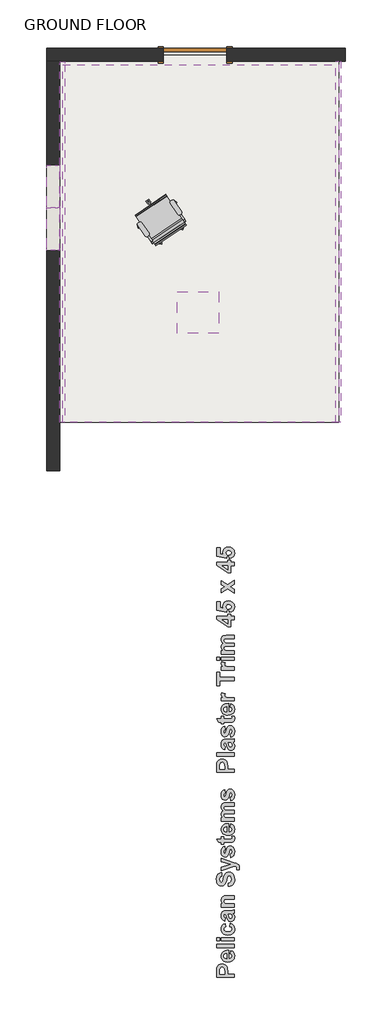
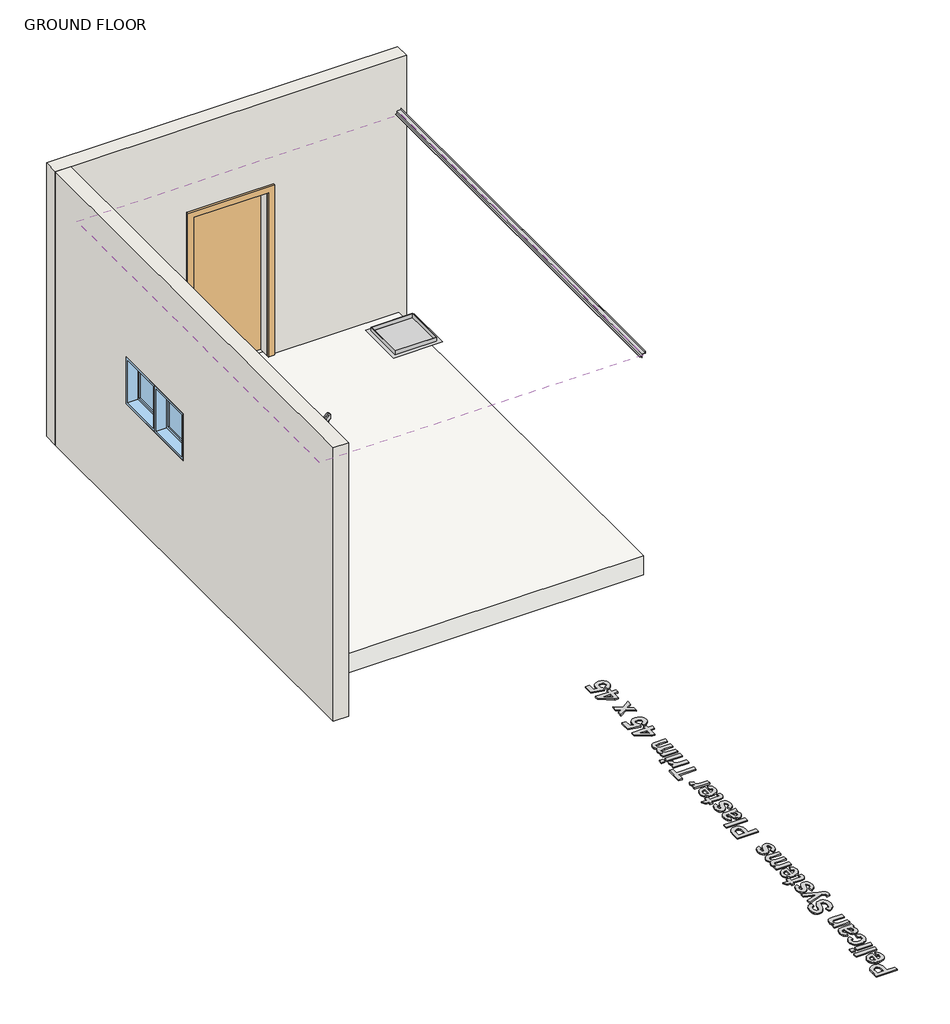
# One storey, incomplete: 4 proxies, 2 walls, 2 windows, 1 covering, 1 door, 1 furniture element, 1 slab.
"""IFC4 building model written with IfcOpenShell, lengths in millimetres."""

from ifc_helpers import new_model, si_unit, frame, origin, origin_with_axes, place, context, project, spatial, polyline, outline, extrude, faceted_brep, transform, mapped, element, save
from components import m_single_flush_0915_x_2134mm_f5238887, chair_task_arms_chair_task_arms_3b363349, m_fixed_0610_x_0610mm_09852ef8

model = new_model("IFC4")

# Units and contexts
model_context = context("Model", 3, world=origin())
ifc_project = project(units=[si_unit("LENGTHUNIT", "METRE", prefix="MILLI")], contexts=[model_context])

# Site, building, storey
site = spatial("IfcSite", under=ifc_project)
building = spatial("IfcBuilding", under=site)
storey = spatial("IfcBuildingStorey", under=building, Name="GROUND FLOOR", Elevation=0.0)

# Proxies
placement = place(None, origin())
element("IfcBuildingElementProxy", 1, Name="600mm Arial", ObjectType="600mm Arial", at=placement, inside=storey, context=model_context, shape_type="SweptSolid", body=[
    extrude(outline(polyline([(137960.6983017, 29009.1487139), (137705.6334517, 29009.1487139), (137705.6334517, 29091.3236246), (137709.4290596, 29152.2431312), (137718.4831659, 29172.2886854), (137734.2586612, 29188.7758571), (137756.1703892, 29199.8068425), (137783.6331938, 29203.4838377), (137805.117916, 29201.3250857), (137822.8861054, 29194.8488297), (137837.0880049, 29185.0435094), (137847.8738573, 29172.8975641), (137859.9249123, 29145.8538579), (137863.5307398, 29091.7664455), (137863.5307398, 29057.7324948), (137960.6983017, 29057.7324948), (137960.6983017, 29009.1487139)]), holes=[polyline([(137750.1685843, 29057.7324948), (137818.9956073, 29057.7324948), (137818.9956073, 29087.9075775), (137815.1999994, 29131.462178), (137803.2754646, 29148.6689338), (137794.4902139, 29153.342276), (137784.3923154, 29154.9000567), (137772.3254453, 29152.7096747), (137762.56757, 29146.1385285), (137755.5773255, 29136.2304104), (137751.8133477, 29124.0291126), (137750.1685843, 29084.3650102), (137750.1685843, 29057.7324948)])]), origin_with_axes(), (0.0, 0.0, 1.0), 15.0),
    extrude(outline(polyline([(137904.017224, 29349.2351805), (137912.1145208, 29397.8189615), (137934.7853704, 29385.9893169), (137951.3041722, 29368.8458213), (137961.3862557, 29346.56244), (137964.7469501, 29319.3131384), (137962.7661173, 29297.3104739), (137956.8236187, 29278.3680183), (137946.9194543, 29262.4857715), (137933.0536243, 29249.6637336), (137904.3493396, 29236.2842158), (137868.9711111, 29231.8243766), (137847.1305507, 29233.3030821), (137827.7887656, 29237.7391989), (137810.9457556, 29245.1327267), (137796.6015208, 29255.4836657), (137785.1435294, 29268.0961544), (137776.9592499, 29282.2743314), (137772.0486822, 29298.0181966), (137770.4118263, 29315.3277501), (137772.0921736, 29334.5627838), (137777.1332153, 29351.6548806), (137785.5349515, 29366.6040404), (137797.2973822, 29379.4102632), (137812.5312126, 29389.6149132), (137831.347148, 29396.7593543), (137853.7451882, 29400.8435865), (137879.7253335, 29401.8676099), (137879.7253335, 29280.4081575), (137900.189986, 29283.523719), (137915.5305679, 29291.8582413), (137925.1144778, 29304.1465218), (137928.3091144, 29319.123358), (137926.8699464, 29329.3240542), (137922.5524425, 29337.7850967), (137915.0403019, 29344.4432256), (137904.017224, 29349.2351805)]), holes=[polyline([(137851.3847946, 29353.2838289), (137832.1774372, 29350.3264178), (137818.2048556, 29342.4663465), (137809.6884604, 29331.0478927), (137806.8496621, 29317.4153344), (137809.8387033, 29303.0236545), (137818.8058269, 29291.3521603), (137832.9602813, 29283.6976844), (137851.3847946, 29281.2305392), (137851.3847946, 29353.2838289)])]), origin_with_axes(), (0.0, 0.0, 1.0), 15.0),
    extrude(outline(polyline([(137960.6983017, 29438.3054456), (137705.6334517, 29438.3054456), (137705.6334517, 29486.8892266), (137960.6983017, 29486.8892266), (137960.6983017, 29438.3054456)])), origin_with_axes(), (0.0, 0.0, 1.0), 15.0),
    extrude(outline(polyline([(137750.1685843, 29535.4730075), (137705.6334517, 29535.4730075), (137705.6334517, 29584.0567885), (137750.1685843, 29584.0567885), (137750.1685843, 29535.4730075)])), origin_with_axes(), (0.0, 0.0, 1.0), 15.0),
    extrude(outline(polyline([(137960.6983017, 29535.4730075), (137774.4604748, 29535.4730075), (137774.4604748, 29584.0567885), (137960.6983017, 29584.0567885), (137960.6983017, 29535.4730075)])), origin_with_axes(), (0.0, 0.0, 1.0), 15.0),
    extrude(outline(polyline([(137827.0929041, 29786.4892091), (137835.1902009, 29737.9054281), (137822.8307528, 29734.1809879), (137813.9664268, 29727.5623966), (137808.6288532, 29718.2868799), (137806.8496621, 29706.5916631), (137810.186634, 29691.1878211), (137820.1975498, 29679.2632863), (137838.0210918, 29671.6246254), (137864.7959425, 29669.0784051), (137894.4807591, 29671.7274231), (137913.9490646, 29679.6744771), (137924.719102, 29692.0813704), (137928.3091144, 29708.1099062), (137926.2610677, 29720.2479439), (137920.1169274, 29729.9662816), (137908.9594217, 29737.2174742), (137891.8712787, 29741.9540765), (137899.9685755, 29790.5378575), (137928.1114265, 29779.9022479), (137948.3942062, 29762.5452493), (137960.6587641, 29738.3087115), (137964.7469501, 29707.034484), (137963.1377705, 29688.2679706), (137958.3102318, 29671.5060127), (137950.2643338, 29656.7486101), (137939.0000766, 29643.995763), (137924.8930673, 29633.7140148), (137908.3189129, 29626.3699089), (137889.2776133, 29621.9634453), (137867.7691686, 29620.4946242), (137846.0175678, 29621.9535609), (137826.816141, 29626.3303713), (137810.1648883, 29633.6250552), (137796.0638096, 29643.8376127), (137784.8410669, 29656.5410378), (137776.8248222, 29671.3083248), (137772.0150753, 29688.1394735), (137770.4118263, 29707.034484), (137773.9148561, 29736.2764797), (137784.4239455, 29758.8445316), (137802.0972447, 29775.371241), (137827.0929041, 29786.4892091)])), origin_with_axes(), (0.0, 0.0, 1.0), 15.0),
    extrude(outline(polyline([(137831.1415525, 29867.4621773), (137823.0442557, 29822.9270448), (137799.7012672, 29832.5821224), (137783.3168932, 29847.3770856), (137773.638093, 29868.9408829), (137770.4118263, 29898.9024627), (137772.3649829, 29925.993614), (137778.2244526, 29945.1456187), (137787.080871, 29958.0823156), (137798.0248737, 29966.5275432), (137815.0339416, 29971.1771628), (137842.0855553, 29972.7270361), (137899.5257546, 29972.7270361), (137935.7105498, 29975.2890714), (137960.6983017, 29984.8729813), (137960.6983017, 29936.2892003), (137945.2628297, 29931.7344709), (137939.1265969, 29930.0264473), (137958.3260468, 29904.0265333), (137963.1417243, 29889.7139286), (137964.7469501, 29874.4840519), (137960.8485445, 29849.7098029), (137949.1533277, 29830.8029312), (137931.5116586, 29818.8230438), (137909.7738959, 29814.829748), (137894.876135, 29816.6089392), (137881.6863976, 29821.9465128), (137870.7898399, 29830.494538), (137862.7716182, 29841.9050842), (137851.3215345, 29878.9122611), (137839.2388494, 29924.1432551), (137834.1147787, 29924.1432551), (137821.4943825, 29922.6329195), (137813.1124151, 29918.1019126), (137808.4153503, 29909.395737), (137806.8496621, 29895.3598953), (137808.1939398, 29885.2857194), (137812.2267732, 29877.7103186), (137831.1415525, 29867.4621773)]), holes=[polyline([(137875.6766851, 29924.1432551), (137882.4138891, 29896.7516182), (137890.099995, 29872.2066872), (137897.0111644, 29865.6118185), (137905.5987272, 29863.4135289), (137914.2100126, 29865.1769051), (137921.5719104, 29870.4670336), (137926.6248134, 29878.4773477), (137928.3091144, 29888.4012808), (137926.3480504, 29900.3100006), (137920.4648581, 29911.6177491), (137905.9150279, 29922.3719714), (137884.4698433, 29924.1432551), (137875.6766851, 29924.1432551)])]), origin_with_axes(), (0.0, 0.0, 1.0), 15.0),
    extrude(outline(polyline([(137960.6983017, 30187.3054019), (137960.6983017, 30138.721621), (137864.9857228, 30138.721621), (137825.6379211, 30135.6851347), (137811.7839523, 30125.753294), (137806.8496621, 30109.2423997), (137808.6130382, 30097.4839228), (137813.9031667, 30087.0064635), (137822.1111688, 30078.7193863), (137832.6281656, 30073.5320555), (137875.7399452, 30069.894598), (137960.6983017, 30069.894598), (137960.6983017, 30021.310817), (137774.4604748, 30021.310817), (137774.4604748, 30069.894598), (137801.2827705, 30069.894598), (137787.7767324, 30082.1868322), (137778.1295624, 30095.9735871), (137772.3412603, 30111.2548626), (137770.4118263, 30128.0306588), (137776.2950186, 30156.2446774), (137791.2876697, 30175.6022776), (137811.9421026, 30184.7433666), (137845.0587814, 30187.3054019), (137960.6983017, 30187.3054019)])), origin_with_axes(), (0.0, 0.0, 1.0), 15.0),
    extrude(outline(polyline([(137875.6766851, 30320.9107995), (137871.6280367, 30369.4945805), (137893.3578918, 30376.5797152), (137908.4454332, 30388.4726199), (137917.2702215, 30405.2523698), (137920.2118176, 30426.99804), (137917.6102447, 30449.5660919), (137909.805526, 30465.7765005), (137898.5215, 30475.5501909), (137885.4820054, 30478.8080876), (137870.2679438, 30473.3993464), (137859.3555712, 30454.452937), (137848.5380887, 30412.3216895), (137837.3568604, 30376.3583047), (137823.676857, 30352.9836862), (137800.3813136, 30335.0019938), (137772.4994107, 30329.0080964), (137753.7111516, 30331.7599121), (137736.1880952, 30340.0153592), (137721.3061493, 30353.4581372), (137710.4412217, 30371.7719452), (137703.7989079, 30394.6562978), (137701.5848033, 30421.8107092), (137707.1042498, 30463.7758989), (137714.0035579, 30480.3164464), (137723.6625892, 30493.895629), (137735.6227078, 30504.556938), (137749.4252777, 30512.3438648), (137765.070299, 30517.2564094), (137782.5577716, 30519.2945717), (137782.5577716, 30470.7107908), (137765.8650044, 30465.3415871), (137754.6284235, 30456.0660704), (137748.2470578, 30442.0302287), (137746.1199359, 30422.3800504), (137748.3814856, 30401.6939874), (137755.1661347, 30386.0687349), (137761.9665988, 30379.7110917), (137770.728127, 30377.5918773), (137778.9993892, 30379.5213113), (137785.9738187, 30385.3096133), (137794.1422831, 30402.1130858), (137802.5796032, 30432.9128623), (137811.3569464, 30465.7844081), (137820.5454805, 30488.8031884), (137831.6713561, 30504.9345219), (137846.2607239, 30517.1437273), (137864.4954568, 30524.8298333), (137886.5574277, 30527.3918686), (137907.6230514, 30524.3632898), (137927.2969523, 30515.2775534), (137943.8394767, 30500.648648), (137955.5109709, 30480.9905622), (137962.4379553, 30456.0897929), (137964.7469501, 30425.7328373), (137963.3255741, 30403.0303577), (137959.0614458, 30383.1271388), (137951.9545654, 30366.0231808), (137942.0049329, 30351.7184835), (137929.3311609, 30340.1142032), (137914.0518623, 30331.1114957), (137896.167037, 30324.7103612), (137875.6766851, 30320.9107995)])), origin_with_axes(), (0.0, 0.0, 1.0), 15.0),
    extrude(outline(polyline([(137774.4604748, 30547.6351106), (137774.4604748, 30596.2188916), (137906.2945887, 30638.7296999), (137774.4604748, 30681.2405082), (137774.4604748, 30729.8242892), (137952.9173056, 30666.8171983), (137986.0656144, 30655.114074), (138009.6616435, 30643.5691), (138022.8830109, 30630.9487038), (138030.7588973, 30613.3940173), (138033.5739732, 30589.8928784), (138030.7905274, 30563.8297043), (137994.7955126, 30559.7810559), (137997.1361374, 30579.075396), (137994.5661946, 30592.8423821), (137986.8563661, 30602.5132747), (137960.6983017, 30614.1847689), (137774.4604748, 30547.6351106)])), origin_with_axes(), (0.0, 0.0, 1.0), 15.0),
    extrude(outline(polyline([(137908.0658724, 30737.921586), (137899.9685755, 30786.505367), (137912.209411, 30791.1312641), (137921.0974594, 30798.9359828), (137926.5062007, 30810.1883787), (137928.3091144, 30825.1573073), (137926.5852758, 30841.399346), (137921.4137601, 30853.0550253), (137915.7836084, 30857.7995351), (137908.5086933, 30859.3810384), (137899.3992344, 30856.0282514), (137893.0099611, 30840.1499584), (137880.5793453, 30793.2267559), (137869.2241517, 30767.3375471), (137851.2424593, 30751.3485489), (137827.4092048, 30746.0188829), (137805.2207137, 30750.5894273), (137786.8594605, 30764.3010608), (137774.5237349, 30787.6282343), (137770.4118263, 30821.0453987), (137773.7329832, 30852.91269), (137783.6964539, 30875.3858517), (137800.1757182, 30890.3943178), (137823.0442557, 30899.8675225), (137831.1415525, 30851.2837416), (137820.7510759, 30847.7095441), (137813.1124151, 30841.9212421), (137808.4153503, 30833.5709048), (137806.8496621, 30822.3106014), (137808.1781248, 30808.4724476), (137812.1635131, 30799.2206534), (137822.0320936, 30794.6026638), (137830.8252519, 30799.2206534), (137844.4261801, 30842.2059127), (137854.2473155, 30873.4326951), (137866.1244052, 30893.5415094), (137881.7971028, 30904.3589919), (137902.6255011, 30907.9648194), (137926.3243278, 30902.737951), (137946.4331421, 30887.0573459), (137954.4454331, 30875.348291), (137960.1684981, 30861.1285995), (137964.7469501, 30825.1573073), (137960.9355272, 30791.8429406), (137949.5012585, 30766.293755), (137931.5195661, 30748.3674152), (137908.0658724, 30737.921586)])), origin_with_axes(), (0.0, 0.0, 1.0), 15.0),
    extrude(outline(polyline([(137774.4604748, 31041.570217), (137810.8983105, 31041.570217), (137810.8983105, 31005.1323813), (137890.7958565, 31005.1323813), (137919.0415052, 31006.2394336), (137925.683819, 31011.268614), (137928.3091144, 31020.8208939), (137923.6278647, 31043.5945412), (137958.1678965, 31045.6188654), (137963.1021867, 31026.8780514), (137964.7469501, 31005.8282427), (137960.1922207, 30981.2833117), (137948.4258362, 30965.2468684), (137928.8784556, 30958.1301036), (137893.5160421, 30956.5486003), (137810.8983105, 30956.5486003), (137810.8983105, 30932.2567098), (137774.4604748, 30932.2567098), (137774.4604748, 30956.5486003), (137738.022639, 30956.5486003), (137709.6821002, 31005.1323813), (137774.4604748, 31005.1323813), (137774.4604748, 31041.570217)])), origin_with_axes(), (0.0, 0.0, 1.0), 15.0),
    extrude(outline(polyline([(137904.017224, 31175.1756146), (137912.1145208, 31223.7593955), (137934.7853704, 31211.9297509), (137951.3041722, 31194.7862553), (137961.3862557, 31172.502874), (137964.7469501, 31145.2535724), (137962.7661173, 31123.2509079), (137956.8236187, 31104.3084523), (137946.9194543, 31088.4262056), (137933.0536243, 31075.6041677), (137904.3493396, 31062.2246499), (137868.9711111, 31057.7648106), (137847.1305507, 31059.2435162), (137827.7887656, 31063.6796329), (137810.9457556, 31071.0731608), (137796.6015208, 31081.4240998), (137785.1435294, 31094.0365885), (137776.9592499, 31108.2147654), (137772.0486822, 31123.9586307), (137770.4118263, 31141.2681841), (137772.0921736, 31160.5032178), (137777.1332153, 31177.5953146), (137785.5349515, 31192.5444744), (137797.2973822, 31205.3506973), (137812.5312126, 31215.5553472), (137831.347148, 31222.6997883), (137853.7451882, 31226.7840206), (137879.7253335, 31227.8080439), (137879.7253335, 31106.3485916), (137900.189986, 31109.464153), (137915.5305679, 31117.7986754), (137925.1144778, 31130.0869559), (137928.3091144, 31145.063792), (137926.8699464, 31155.2644882), (137922.5524425, 31163.7255308), (137915.0403019, 31170.3836596), (137904.017224, 31175.1756146)]), holes=[polyline([(137851.3847946, 31179.224263), (137832.1774372, 31176.2668518), (137818.2048556, 31168.4067805), (137809.6884604, 31156.9883268), (137806.8496621, 31143.3557685), (137809.8387033, 31128.9640886), (137818.8058269, 31117.2925943), (137832.9602813, 31109.6381184), (137851.3847946, 31107.1709733), (137851.3847946, 31179.224263)])]), origin_with_axes(), (0.0, 0.0, 1.0), 15.0),
    extrude(outline(polyline([(137774.4604748, 31260.1972312), (137774.4604748, 31308.7810122), (137799.3849665, 31308.7810122), (137786.7092177, 31320.7411308), (137777.6551114, 31333.7845791), (137772.2226476, 31347.9113572), (137770.4118263, 31363.1214651), (137772.1910175, 31378.7704401), (137777.5285911, 31392.1894955), (137786.4719922, 31403.3944463), (137799.0686659, 31412.4011075), (137786.4719922, 31424.8396308), (137777.5285911, 31438.2428712), (137772.1910175, 31452.5950135), (137770.4118263, 31467.8802428), (137772.4915032, 31486.3363861), (137778.7305336, 31501.7244131), (137789.0023975, 31513.8387283), (137803.1805744, 31522.4737362), (137818.7583818, 31526.1744539), (137841.7059945, 31527.4080265), (137960.6983017, 31527.4080265), (137960.6983017, 31478.8242455), (137853.4723789, 31478.8242455), (137830.5247662, 31477.590673), (137817.4773641, 31473.8899553), (137809.5065876, 31465.5079878), (137806.8496621, 31453.5201929), (137808.4390729, 31443.8176703), (137813.2073053, 31434.7003038), (137821.043654, 31427.1090881), (137831.837414, 31421.9850174), (137870.6158745, 31418.0945193), (137960.6983017, 31418.0945193), (137960.6983017, 31369.5107384), (137857.9005881, 31369.5107384), (137822.5698047, 31366.9803331), (137810.7401601, 31359.1677069), (137806.8496621, 31344.776027), (137808.3916278, 31334.3855504), (137813.0175249, 31325.1021261), (137820.5612955, 31317.6058005), (137830.8568819, 31312.5766201), (137869.5404523, 31308.7810122), (137960.6983017, 31308.7810122), (137960.6983017, 31260.1972312), (137774.4604748, 31260.1972312)])), origin_with_axes(), (0.0, 0.0, 1.0), 15.0),
    extrude(outline(polyline([(137908.0658724, 31555.7485654), (137899.9685755, 31604.3323463), (137912.209411, 31608.9582434), (137921.0974594, 31616.7629621), (137926.5062007, 31628.015358), (137928.3091144, 31642.9842866), (137926.5852758, 31659.2263254), (137921.4137601, 31670.8820046), (137915.7836084, 31675.6265144), (137908.5086933, 31677.2080177), (137899.3992344, 31673.8552308), (137893.0099611, 31657.9769378), (137880.5793453, 31611.0537353), (137869.2241517, 31585.1645265), (137851.2424593, 31569.1755283), (137827.4092048, 31563.8458622), (137805.2207137, 31568.4164067), (137786.8594605, 31582.1280402), (137774.5237349, 31605.4552136), (137770.4118263, 31638.8723781), (137773.7329832, 31670.7396693), (137783.6964539, 31693.212831), (137800.1757182, 31708.2212972), (137823.0442557, 31717.6945019), (137831.1415525, 31669.1107209), (137820.7510759, 31665.5365235), (137813.1124151, 31659.7482215), (137808.4153503, 31651.3978841), (137806.8496621, 31640.1375807), (137808.1781248, 31626.299427), (137812.1635131, 31617.0476327), (137822.0320936, 31612.4296431), (137830.8252519, 31617.0476327), (137844.4261801, 31660.032892), (137854.2473155, 31691.2596744), (137866.1244052, 31711.3684887), (137881.7971028, 31722.1859712), (137902.6255011, 31725.7917987), (137926.3243278, 31720.5649303), (137946.4331421, 31704.8843252), (137954.4454331, 31693.1752703), (137960.1684981, 31678.9555789), (137964.7469501, 31642.9842866), (137960.9355272, 31609.6699199), (137949.5012585, 31584.1207343), (137931.5195661, 31566.1943946), (137908.0658724, 31555.7485654)])), origin_with_axes(), (0.0, 0.0, 1.0), 15.0),
    extrude(outline(polyline([(137960.6983017, 31964.662055), (137705.6334517, 31964.662055), (137705.6334517, 32046.8369658), (137709.4290596, 32107.7564724), (137718.4831659, 32127.8020265), (137734.2586612, 32144.2891983), (137756.1703892, 32155.3201837), (137783.6331938, 32158.9971788), (137805.117916, 32156.8384268), (137822.8861054, 32150.3621709), (137837.0880049, 32140.5568505), (137847.8738573, 32128.4109053), (137859.9249123, 32101.3671991), (137863.5307398, 32047.2797867), (137863.5307398, 32013.245836), (137960.6983017, 32013.245836), (137960.6983017, 31964.662055)]), holes=[polyline([(137750.1685843, 32013.245836), (137818.9956073, 32013.245836), (137818.9956073, 32043.4209187), (137815.1999994, 32086.9755192), (137803.2754646, 32104.1822749), (137794.4902139, 32108.8556171), (137784.3923154, 32110.4133979), (137772.3254453, 32108.2230158), (137762.56757, 32101.6518697), (137755.5773255, 32091.7437516), (137751.8133477, 32079.5424537), (137750.1685843, 32039.8783513), (137750.1685843, 32013.245836)])]), origin_with_axes(), (0.0, 0.0, 1.0), 15.0),
    extrude(outline(polyline([(137960.6983017, 32199.4836629), (137705.6334517, 32199.4836629), (137705.6334517, 32248.0674439), (137960.6983017, 32248.0674439), (137960.6983017, 32199.4836629)])), origin_with_axes(), (0.0, 0.0, 1.0), 15.0),
    extrude(outline(polyline([(137831.1415525, 32337.137709), (137823.0442557, 32292.6025764), (137799.7012672, 32302.257654), (137783.3168932, 32317.0526172), (137773.638093, 32338.6164145), (137770.4118263, 32368.5779943), (137772.3649829, 32395.6691456), (137778.2244526, 32414.8211504), (137787.080871, 32427.7578473), (137798.0248737, 32436.2030748), (137815.0339416, 32440.8526945), (137842.0855553, 32442.4025677), (137899.5257546, 32442.4025677), (137935.7105498, 32444.964603), (137960.6983017, 32454.5485129), (137960.6983017, 32405.964732), (137945.2628297, 32401.4100025), (137939.1265969, 32399.701979), (137958.3260468, 32373.7020649), (137963.1417243, 32359.3894602), (137964.7469501, 32344.1595836), (137960.8485445, 32319.3853346), (137949.1533277, 32300.4784628), (137931.5116586, 32288.4985754), (137909.7738959, 32284.5052796), (137894.876135, 32286.2844708), (137881.6863976, 32291.6220444), (137870.7898399, 32300.1700697), (137862.7716182, 32311.5806159), (137851.3215345, 32348.5877928), (137839.2388494, 32393.8187867), (137834.1147787, 32393.8187867), (137821.4943825, 32392.3084511), (137813.1124151, 32387.7774442), (137808.4153503, 32379.0712686), (137806.8496621, 32365.0354269), (137808.1939398, 32354.961251), (137812.2267732, 32347.3858503), (137831.1415525, 32337.137709)]), holes=[polyline([(137875.6766851, 32393.8187867), (137882.4138891, 32366.4271498), (137890.099995, 32341.8822188), (137897.0111644, 32335.2873501), (137905.5987272, 32333.0890606), (137914.2100126, 32334.8524367), (137921.5719104, 32340.1425652), (137926.6248134, 32348.1528794), (137928.3091144, 32358.0768125), (137926.3480504, 32369.9855322), (137920.4648581, 32381.2932807), (137905.9150279, 32392.0475031), (137884.4698433, 32393.8187867), (137875.6766851, 32393.8187867)])]), origin_with_axes(), (0.0, 0.0, 1.0), 15.0),
    extrude(outline(polyline([(137908.0658724, 32470.7431066), (137899.9685755, 32519.3268875), (137912.209411, 32523.9527846), (137921.0974594, 32531.7575034), (137926.5062007, 32543.0098992), (137928.3091144, 32557.9788279), (137926.5852758, 32574.2208666), (137921.4137601, 32585.8765458), (137915.7836084, 32590.6210557), (137908.5086933, 32592.202559), (137899.3992344, 32588.849772), (137893.0099611, 32572.971479), (137880.5793453, 32526.0482765), (137869.2241517, 32500.1590677), (137851.2424593, 32484.1700695), (137827.4092048, 32478.8404034), (137805.2207137, 32483.4109479), (137786.8594605, 32497.1225814), (137774.5237349, 32520.4497549), (137770.4118263, 32553.8669193), (137773.7329832, 32585.7342105), (137783.6964539, 32608.2073722), (137800.1757182, 32623.2158384), (137823.0442557, 32632.6890431), (137831.1415525, 32584.1052621), (137820.7510759, 32580.5310647), (137813.1124151, 32574.7427627), (137808.4153503, 32566.3924253), (137806.8496621, 32555.1321219), (137808.1781248, 32541.2939682), (137812.1635131, 32532.042174), (137822.0320936, 32527.4241844), (137830.8252519, 32532.042174), (137844.4261801, 32575.0274333), (137854.2473155, 32606.2542157), (137866.1244052, 32626.3630299), (137881.7971028, 32637.1805124), (137902.6255011, 32640.7863399), (137926.3243278, 32635.5594716), (137946.4331421, 32619.8788665), (137954.4454331, 32608.1698115), (137960.1684981, 32593.9501201), (137964.7469501, 32557.9788279), (137960.9355272, 32524.6644611), (137949.5012585, 32499.1152755), (137931.5195661, 32481.1889358), (137908.0658724, 32470.7431066)])), origin_with_axes(), (0.0, 0.0, 1.0), 15.0),
    extrude(outline(polyline([(137774.4604748, 32774.3917375), (137810.8983105, 32774.3917375), (137810.8983105, 32737.9539018), (137890.7958565, 32737.9539018), (137919.0415052, 32739.0609541), (137925.683819, 32744.0901346), (137928.3091144, 32753.6424144), (137923.6278647, 32776.4160617), (137958.1678965, 32778.4403859), (137963.1021867, 32759.699572), (137964.7469501, 32738.6497633), (137960.1922207, 32714.1048323), (137948.4258362, 32698.0683889), (137928.8784556, 32690.9516241), (137893.5160421, 32689.3701209), (137810.8983105, 32689.3701209), (137810.8983105, 32665.0782304), (137774.4604748, 32665.0782304), (137774.4604748, 32689.3701209), (137738.022639, 32689.3701209), (137709.6821002, 32737.9539018), (137774.4604748, 32737.9539018), (137774.4604748, 32774.3917375)])), origin_with_axes(), (0.0, 0.0, 1.0), 15.0),
    extrude(outline(polyline([(137904.017224, 32907.9971351), (137912.1145208, 32956.5809161), (137934.7853704, 32944.7512715), (137951.3041722, 32927.6077759), (137961.3862557, 32905.3243946), (137964.7469501, 32878.075093), (137962.7661173, 32856.0724285), (137956.8236187, 32837.1299729), (137946.9194543, 32821.2477261), (137933.0536243, 32808.4256882), (137904.3493396, 32795.0461704), (137868.9711111, 32790.5863312), (137847.1305507, 32792.0650367), (137827.7887656, 32796.5011535), (137810.9457556, 32803.8946813), (137796.6015208, 32814.2456203), (137785.1435294, 32826.858109), (137776.9592499, 32841.036286), (137772.0486822, 32856.7801512), (137770.4118263, 32874.0897047), (137772.0921736, 32893.3247384), (137777.1332153, 32910.4168352), (137785.5349515, 32925.365995), (137797.2973822, 32938.1722178), (137812.5312126, 32948.3768678), (137831.347148, 32955.5213089), (137853.7451882, 32959.6055411), (137879.7253335, 32960.6295645), (137879.7253335, 32839.1701121), (137900.189986, 32842.2856736), (137915.5305679, 32850.6201959), (137925.1144778, 32862.9084765), (137928.3091144, 32877.8853126), (137926.8699464, 32888.0860088), (137922.5524425, 32896.5470513), (137915.0403019, 32903.2051802), (137904.017224, 32907.9971351)]), holes=[polyline([(137851.3847946, 32912.0457836), (137832.1774372, 32909.0883724), (137818.2048556, 32901.2283011), (137809.6884604, 32889.8098473), (137806.8496621, 32876.177289), (137809.8387033, 32861.7856091), (137818.8058269, 32850.1141149), (137832.9602813, 32842.459639), (137851.3847946, 32839.9924938), (137851.3847946, 32912.0457836)])]), origin_with_axes(), (0.0, 0.0, 1.0), 15.0),
    extrude(outline(polyline([(137960.6983017, 33045.6511812), (137960.6983017, 32997.0674002), (137774.4604748, 32997.0674002), (137774.4604748, 33045.6511812), (137800.3971286, 33045.6511812), (137776.2001284, 33065.0720415), (137770.4118263, 33084.6826823), (137772.9738617, 33099.8492988), (137780.6599676, 33114.4782042), (137826.9031237, 33100.3079347), (137820.9724864, 33088.6048104), (137818.9956073, 33077.7873279), (137824.5308688, 33060.6754624), (137832.2881424, 33054.4285244), (137844.4894403, 33049.6681995), (137904.9661259, 33045.6511812), (137960.6983017, 33045.6511812)])), origin_with_axes(), (0.0, 0.0, 1.0), 15.0),
    extrude(outline(polyline([(137960.6983017, 33288.5700859), (137750.1685843, 33288.5700859), (137750.1685843, 33215.6944145), (137705.6334517, 33215.6944145), (137705.6334517, 33410.0295383), (137750.1685843, 33410.0295383), (137750.1685843, 33337.1538669), (137960.6983017, 33337.1538669), (137960.6983017, 33288.5700859)])), origin_with_axes(), (0.0, 0.0, 1.0), 15.0),
    extrude(outline(polyline([(137960.6983017, 33491.0025065), (137960.6983017, 33442.4187256), (137774.4604748, 33442.4187256), (137774.4604748, 33491.0025065), (137800.3971286, 33491.0025065), (137776.2001284, 33510.4233669), (137770.4118263, 33530.0340076), (137772.9738617, 33545.2006242), (137780.6599676, 33559.8295296), (137826.9031237, 33545.6592601), (137820.9724864, 33533.9561358), (137818.9956073, 33523.1386533), (137824.5308688, 33506.0267878), (137832.2881424, 33499.7798498), (137844.4894403, 33495.0195249), (137904.9661259, 33491.0025065), (137960.6983017, 33491.0025065)])), origin_with_axes(), (0.0, 0.0, 1.0), 15.0),
    extrude(outline(polyline([(137750.1685843, 33580.0727716), (137705.6334517, 33580.0727716), (137705.6334517, 33628.6565526), (137750.1685843, 33628.6565526), (137750.1685843, 33580.0727716)])), origin_with_axes(), (0.0, 0.0, 1.0), 15.0),
    extrude(outline(polyline([(137960.6983017, 33580.0727716), (137774.4604748, 33580.0727716), (137774.4604748, 33628.6565526), (137960.6983017, 33628.6565526), (137960.6983017, 33580.0727716)])), origin_with_axes(), (0.0, 0.0, 1.0), 15.0),
    extrude(outline(polyline([(137774.4604748, 33673.1916851), (137774.4604748, 33721.7754661), (137799.3849665, 33721.7754661), (137786.7092177, 33733.7355847), (137777.6551114, 33746.779033), (137772.2226476, 33760.9058111), (137770.4118263, 33776.115919), (137772.1910175, 33791.764894), (137777.5285911, 33805.1839494), (137786.4719922, 33816.3889002), (137799.0686659, 33825.3955614), (137786.4719922, 33837.8340847), (137777.5285911, 33851.2373251), (137772.1910175, 33865.5894674), (137770.4118263, 33880.8746966), (137772.4915032, 33899.33084), (137778.7305336, 33914.718867), (137789.0023975, 33926.8331821), (137803.1805744, 33935.4681901), (137818.7583818, 33939.1689078), (137841.7059945, 33940.4024803), (137960.6983017, 33940.4024803), (137960.6983017, 33891.8186994), (137853.4723789, 33891.8186994), (137830.5247662, 33890.5851268), (137817.4773641, 33886.8844091), (137809.5065876, 33878.5024417), (137806.8496621, 33866.5146468), (137808.4390729, 33856.8121241), (137813.2073053, 33847.6947577), (137821.043654, 33840.1035419), (137831.837414, 33834.9794713), (137870.6158745, 33831.0889732), (137960.6983017, 33831.0889732), (137960.6983017, 33782.5051922), (137857.9005881, 33782.5051922), (137822.5698047, 33779.974787), (137810.7401601, 33772.1621608), (137806.8496621, 33757.7704809), (137808.3916278, 33747.3800043), (137813.0175249, 33738.09658), (137820.5612955, 33730.6002544), (137830.8568819, 33725.5710739), (137869.5404523, 33721.7754661), (137960.6983017, 33721.7754661), (137960.6983017, 33673.1916851), (137774.4604748, 33673.1916851)])), origin_with_axes(), (0.0, 0.0, 1.0), 15.0),
    extrude(outline(polyline([(137960.6983017, 34167.1267914), (137908.0658724, 34167.1267914), (137908.0658724, 34069.9592295), (137867.7691686, 34069.9592295), (137709.6821002, 34173.5793248), (137709.6821002, 34215.7105724), (137867.5793882, 34215.7105724), (137867.5793882, 34248.0997597), (137908.0658724, 34248.0997597), (137908.0658724, 34215.7105724), (137960.6983017, 34215.7105724), (137960.6983017, 34167.1267914)]), holes=[polyline([(137867.5793882, 34167.1267914), (137784.708616, 34167.1267914), (137867.5793882, 34112.8495987), (137867.5793882, 34167.1267914)])]), origin_with_axes(), (0.0, 0.0, 1.0), 15.0),
    extrude(outline(polyline([(137888.8980525, 34272.3916502), (137883.7739819, 34316.9267827), (137898.8457082, 34321.0703213), (137910.4064972, 34329.3257685), (137917.7604875, 34340.4279215), (137920.2118176, 34353.1115779), (137917.6102447, 34367.3055699), (137909.805526, 34379.143122), (137896.7660314, 34387.1376211), (137878.4601308, 34389.8024541), (137861.3008202, 34387.3274015), (137849.0441697, 34379.9022436), (137841.6901794, 34368.5075124), (137839.2388494, 34354.12374), (137844.2996599, 34335.3038509), (137859.4820914, 34318.5715461), (137853.2193384, 34276.4402986), (137709.6821002, 34304.7808375), (137709.6821002, 34426.2402898), (137758.2658811, 34426.2402898), (137758.2658811, 34344.0653791), (137804.6355575, 34334.2600587), (137797.186677, 34349.7429759), (137794.7037168, 34365.5738238), (137800.4524813, 34393.6929522), (137817.6987746, 34417.194091), (137844.117787, 34433.0881991), (137877.3847086, 34438.3862351), (137906.3104037, 34433.9738409), (137931.9782021, 34420.7366584), (137946.3145293, 34407.5192447), (137956.5547631, 34391.9691136), (137962.6989034, 34374.0862652), (137964.7469501, 34353.8706995), (137959.6070645, 34322.8653275), (137944.1874074, 34298.1701537), (137920.0852973, 34280.9554905), (137888.8980525, 34272.3916502)])), origin_with_axes(), (0.0, 0.0, 1.0), 15.0),
    extrude(outline(polyline([(137960.6983017, 34549.7240664), (137864.7959425, 34615.5146031), (137774.4604748, 34557.8213632), (137774.4604748, 34615.5778633), (137825.6379211, 34643.6653616), (137774.4604748, 34674.156745), (137774.4604748, 34731.913245), (137862.645098, 34672.5119816), (137960.6983017, 34740.0105418), (137960.6983017, 34682.2540418), (137903.0050618, 34643.6653616), (137960.6983017, 34607.4805664), (137960.6983017, 34549.7240664)])), origin_with_axes(), (0.0, 0.0, 1.0), 15.0),
    extrude(outline(polyline([(137960.6983017, 34944.4672866), (137908.0658724, 34944.4672866), (137908.0658724, 34847.2997247), (137867.7691686, 34847.2997247), (137709.6821002, 34950.91982), (137709.6821002, 34993.0510676), (137867.5793882, 34993.0510676), (137867.5793882, 35025.4402549), (137908.0658724, 35025.4402549), (137908.0658724, 34993.0510676), (137960.6983017, 34993.0510676), (137960.6983017, 34944.4672866)]), holes=[polyline([(137867.5793882, 34944.4672866), (137784.708616, 34944.4672866), (137867.5793882, 34890.1900939), (137867.5793882, 34944.4672866)])]), origin_with_axes(), (0.0, 0.0, 1.0), 15.0),
    extrude(outline(polyline([(137888.8980525, 35049.7321454), (137883.7739819, 35094.2672779), (137898.8457082, 35098.4108165), (137910.4064972, 35106.6662637), (137917.7604875, 35117.7684167), (137920.2118176, 35130.4520731), (137917.6102447, 35144.6460651), (137909.805526, 35156.4836172), (137896.7660314, 35164.4781163), (137878.4601308, 35167.1429493), (137861.3008202, 35164.6678967), (137849.0441697, 35157.2427388), (137841.6901794, 35145.8480076), (137839.2388494, 35131.4642352), (137844.2996599, 35112.6443461), (137859.4820914, 35095.9120413), (137853.2193384, 35053.7807938), (137709.6821002, 35082.1213327), (137709.6821002, 35203.580785), (137758.2658811, 35203.580785), (137758.2658811, 35121.4058743), (137804.6355575, 35111.6005539), (137797.186677, 35127.0834711), (137794.7037168, 35142.914319), (137800.4524813, 35171.0334474), (137817.6987746, 35194.5345862), (137844.117787, 35210.4286943), (137877.3847086, 35215.7267303), (137906.3104037, 35211.3143361), (137931.9782021, 35198.0771536), (137946.3145293, 35184.8597399), (137956.5547631, 35169.3096088), (137962.6989034, 35151.4267604), (137964.7469501, 35131.2111947), (137959.6070645, 35100.2058227), (137944.1874074, 35075.5106489), (137920.0852973, 35058.2959857), (137888.8980525, 35049.7321454)])), origin_with_axes(), (0.0, 0.0, 1.0), 15.0),
])
element("IfcBuildingElementProxy", 2, Name="Ceiling_Access_HatchPanel_Parametric : In Lay", ObjectType="Ceiling_Access_HatchPanel_Parametric : In Lay", at=placement, inside=storey, context=model_context, shape_type="SolidModel", body=[
    faceted_brep([(137182.6212716, 38849.9489557, 2650.9842933), (137182.6212716, 38339.2489557, 2650.9842933), (137693.3212716, 38339.2489557, 2650.9842933), (137693.3212716, 38849.9489557, 2650.9842933), (137188.9712716, 38843.5989557, 2650.9842933), (137686.9712716, 38843.5989557, 2650.9842933), (137686.9712716, 38345.5989557, 2650.9842933), (137188.9712716, 38345.5989557, 2650.9842933), (137182.6212716, 38849.9489557, 2600.9842933), (137693.3212716, 38849.9489557, 2600.9842933), (137693.3212716, 38339.2489557, 2600.9842933), (137182.6212716, 38339.2489557, 2600.9842933), (137188.9712716, 38843.5989557, 2600.9842933), (137188.9712716, 38345.5989557, 2600.9842933), (137686.9712716, 38345.5989557, 2600.9842933), (137686.9712716, 38843.5989557, 2600.9842933), (137182.6212716, 38849.9489557, 2611.9842933), (137182.6212716, 38339.2489557, 2611.9842933), (137693.3212716, 38339.2489557, 2611.9842933), (137693.3212716, 38849.9489557, 2611.9842933)], [[[0, 1, 2, 3], [4, 5, 6, 7]], [[8, 9, 10, 11], [12, 13, 14, 15]], [[5, 4, 12, 15]], [[6, 5, 15, 14]], [[7, 6, 14, 13]], [[4, 7, 13, 12]], [[1, 0, 16, 8, 11, 17]], [[2, 1, 17, 11, 10, 18]], [[3, 2, 18, 10, 9, 19]], [[0, 3, 19, 9, 8, 16]]]),
    extrude(outline(polyline([(137188.9712716, 38843.5989557), (137686.9712716, 38843.5989557), (137686.9712716, 38345.5989557), (137188.9712716, 38345.5989557), (137188.9712716, 38843.5989557)])), frame((0.0, 0.0, 2594.6342933), z_axis=(0.0, 0.0, 1.0), x_axis=(1.0, 0.0, 0.0)), (0.0, 0.0, 1.0), 6.35),
    faceted_brep([(137188.9712716, 38843.5989557, 2600.9842933), (137188.9712716, 38843.5989557, 2591.4592933), (137686.9712716, 38843.5989557, 2591.4592933), (137686.9712716, 38843.5989557, 2600.9842933), (137686.9712716, 38345.5989557, 2591.4592933), (137686.9712716, 38345.5989557, 2600.9842933), (137188.9712716, 38345.5989557, 2591.4592933), (137188.9712716, 38345.5989557, 2600.9842933), (137725.0712716, 38881.6989557, 2591.4592933), (137725.0712716, 38307.4989557, 2591.4592933), (137150.8712716, 38307.4989557, 2591.4592933), (137150.8712716, 38881.6989557, 2591.4592933), (137138.1712716, 38894.3989557, 2600.9842933), (137138.1712716, 38294.7989557, 2600.9842933), (137737.7712716, 38294.7989557, 2600.9842933), (137737.7712716, 38894.3989557, 2600.9842933)], [[[0, 1, 2, 3]], [[3, 2, 4, 5]], [[5, 4, 6, 7]], [[8, 9, 10, 11], [1, 6, 4, 2]], [[12, 13, 14, 15], [3, 5, 7, 0]], [[7, 6, 1, 0]], [[11, 12, 15, 8]], [[8, 15, 14, 9]], [[9, 14, 13, 10]], [[10, 13, 12, 11]]]),
])
element("IfcBuildingElementProxy", 3, Name="TR05 : Trims Pelican Systems Plaster Trim 45 x 45", ObjectType="TR05 : Trims Pelican Systems Plaster Trim 45 x 45", at=placement, inside=storey, context=model_context, shape_type="Brep", body=[
    faceted_brep([(139491.7345529, 37012.9193804, 2640.9842933), (139490.7345529, 37012.9193804, 2640.9842933), (139490.7345529, 37012.9193804, 2620.9842933), (139445.7345529, 37012.9193804, 2620.9842933), (139445.7345529, 37012.9193804, 2587.9685866), (139421.7345529, 37012.9193804, 2587.9685866), (139421.7345529, 37012.9193804, 2586.9685866), (139445.7345529, 37012.9193804, 2586.9685866), (139445.7345529, 37012.9193804, 2575.9685866), (139446.7345529, 37012.9193804, 2575.9685866), (139446.7345529, 37012.9193804, 2619.9842933), (139491.7345529, 37012.9193804, 2619.9842933), (139491.7345529, 42222.9193804, 2640.9842933), (139491.7345529, 42222.9193804, 2619.9842933), (139446.7345529, 42222.9193804, 2619.9842933), (139446.7345529, 42222.9193804, 2575.9685866), (139445.7345529, 42222.9193804, 2575.9685866), (139445.7345529, 42222.9193804, 2586.9685866), (139421.7345529, 42222.9193804, 2586.9685866), (139421.7345529, 42222.9193804, 2587.9685866), (139445.7345529, 42222.9193804, 2587.9685866), (139445.7345529, 42222.9193804, 2620.9842933), (139490.7345529, 42222.9193804, 2620.9842933), (139490.7345529, 42222.9193804, 2640.9842933), (139446.7345529, 42171.9193804, 2619.9842933), (139446.7345529, 42172.9193804, 2619.9842933), (139445.7345529, 42171.9193804, 2620.9842933), (139445.7345529, 42172.9193804, 2620.9842933)], [[[0, 1, 2, 3, 4, 5, 6, 7, 8, 9, 10, 11]], [[12, 13, 14, 15, 16, 17, 18, 19, 20, 21, 22, 23]], [[11, 13, 12, 0]], [[10, 24, 25, 14, 13, 11]], [[9, 15, 14, 25, 24, 10]], [[8, 16, 15, 9]], [[6, 18, 17, 7]], [[5, 19, 18, 6]], [[4, 20, 19, 5]], [[3, 26, 27, 21, 20, 4]], [[2, 22, 21, 27, 26, 3]], [[1, 23, 22, 2]], [[0, 12, 23, 1]], [[7, 17, 16, 8]]]),
])
element("IfcBuildingElementProxy", 4, Name="TR05 : Trims Pelican Systems Plaster Trim 45 x 45", ObjectType="TR05 : Trims Pelican Systems Plaster Trim 45 x 45", at=placement, inside=storey, context=model_context, shape_type="Brep", body=[
    faceted_brep([(135442.7345529, 42216.9193804, 2665.9842933), (135443.7345529, 42216.9193804, 2665.9842933), (135443.7345529, 42216.9193804, 2645.9842933), (135488.7345529, 42216.9193804, 2645.9842933), (135488.7345529, 42216.9193804, 2645.0), (135488.7345529, 42216.9193804, 2612.9685866), (135512.7345529, 42216.9193804, 2612.9685866), (135512.7345529, 42216.9193804, 2611.9685866), (135488.7345529, 42216.9193804, 2611.9685866), (135488.7345529, 42216.9193804, 2600.9685866), (135487.7345529, 42216.9193804, 2600.9685866), (135487.7345529, 42216.9193804, 2644.9842933), (135442.7345529, 42216.9193804, 2644.9842933), (135442.7345529, 42216.9193804, 2646.0), (135442.7345529, 37012.9193804, 2665.9842933), (135442.7345529, 37012.9193804, 2644.9842933), (135487.7345529, 37012.9193804, 2644.9842933), (135487.7345529, 37012.9193804, 2600.9685866), (135488.7345529, 37012.9193804, 2600.9685866), (135488.7345529, 37012.9193804, 2611.9685866), (135512.7345529, 37012.9193804, 2611.9685866), (135512.7345529, 37012.9193804, 2612.9685866), (135488.7345529, 37012.9193804, 2612.9685866), (135488.7345529, 37012.9193804, 2645.9842933), (135443.7345529, 37012.9193804, 2645.9842933), (135443.7345529, 37012.9193804, 2665.9842933), (135442.7345529, 42172.9193804, 2644.9842933), (135442.7345529, 42171.9193804, 2644.9842933), (135487.7345529, 42172.9193804, 2644.9842933), (135487.7345529, 42171.9193804, 2644.9842933), (135488.7345529, 42171.9193804, 2612.9685866), (135488.7345529, 42172.9193804, 2612.9685866), (135512.7345529, 42172.9193804, 2611.9685866), (135512.7345529, 42171.9193804, 2611.9685866), (135488.7345529, 42171.9193804, 2611.9685866), (135488.7345529, 42172.9193804, 2611.9685866), (135512.7345529, 42172.9193804, 2612.9685866), (135512.7345529, 42171.9193804, 2612.9685866)], [[[0, 1, 2, 3, 4, 5, 6, 7, 8, 9, 10, 11, 12, 13]], [[14, 15, 16, 17, 18, 19, 20, 21, 22, 23, 24, 25]], [[12, 26, 27, 15, 14, 0, 13]], [[11, 28, 29, 16, 15, 27, 26, 12]], [[10, 17, 16, 29, 28, 11]], [[9, 18, 17, 10]], [[3, 23, 22, 30, 31, 5, 4]], [[7, 32, 33, 20, 19, 34, 35, 8]], [[6, 36, 37, 21, 20, 33, 32, 7]], [[5, 31, 30, 22, 21, 37, 36, 6]], [[2, 24, 23, 3]], [[0, 14, 25, 1]], [[8, 35, 34, 19, 18, 9]], [[1, 25, 24, 2]]]),
])

# Covering
element("IfcCovering", 5, ObjectType="_C2.3 - 12mm FLUSHPLASTER CEILING (UNDER CONCRETE SOFFIT)", at=placement, inside=storey, context=model_context, shape_type="SweptSolid", body=[
    extrude(outline(polyline([(135488.7345529, 42171.9193804), (139466.7345529, 42171.9193804), (139466.7345529, 37012.9193804), (135488.7345529, 37012.9193804), (135488.7345529, 42171.9193804)]), holes=[polyline([(137182.6212716, 38849.9489557), (137182.6212716, 38339.2489557), (137693.3212716, 38339.2489557), (137693.3212716, 38849.9489557), (137182.6212716, 38849.9489557)])]), frame((0.0, 0.0, 2600.9842933), z_axis=(0.0, 0.0, 1.0), x_axis=(1.0, 0.0, 0.0)), (0.0, 0.0, 1.0), 11.0),
])

# Door
m_single_flush_0915_x_2134mm_shape = m_single_flush_0915_x_2134mm_f5238887(model_context)
element("IfcDoor", 6, ObjectType="M_Single-Flush : 0915 x 2134mm", at=placement, inside=storey, context=model_context, shape_type="MappedRepresentation", body=[
    mapped(m_single_flush_0915_x_2134mm_shape, transform((137394.7345529, 42312.9193804, 0.0), x_axis=(1.0, 0.0, 0.0), y_axis=(0.0, 1.0, 0.0), z_axis=(0.0, 0.0, 1.0))),
])

# Furniture
chair_task_arms_chair_task_arms_shape = chair_task_arms_chair_task_arms_3b363349(model_context)
element("IfcFurniture", 7, ObjectType="Chair-Task Arms : Chair-Task Arms", at=placement, inside=storey, context=model_context, shape_type="MappedRepresentation", body=[
    mapped(chair_task_arms_chair_task_arms_shape, transform((136792.677586, 39836.7323612, 0.0), x_axis=(0.8290375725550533, 0.5591929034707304, 0.0), y_axis=(-0.5591929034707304, 0.8290375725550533, 0.0), z_axis=(0.0, 0.0, 1.0))),
])

# Slab
element("IfcSlab", 8, ObjectType="Generic Floor - 250mm", at=placement, inside=storey, context=model_context, shape_type="Brep", body=[
    faceted_brep([(135366.7345529, 42312.9193804, -250.0), (139466.7345529, 42312.9193804, -250.0), (139466.7345529, 42217.9193804, -250.0), (139466.7345529, 37012.9193804, -250.0), (135366.7345529, 37012.9193804, -250.0), (135366.7345529, 42217.9193804, -250.0), (135366.7345529, 42312.9193804, 0.0), (135366.7345529, 42217.9193804, 0.0), (135366.7345529, 37012.9193804, 0.0), (139466.7345529, 37012.9193804, 0.0), (139466.7345529, 42217.9193804, 0.0), (139466.7345529, 42312.9193804, 0.0), (137852.2345529, 42312.9193804, 0.0), (136937.2345529, 42312.9193804, 0.0)], [[[0, 1, 2, 3, 4, 5]], [[6, 7, 8, 9, 10, 11, 12, 13]], [[1, 0, 6, 13, 12, 11]], [[3, 2, 1, 11, 10, 9]], [[4, 3, 9, 8]], [[0, 5, 4, 8, 7, 6]]]),
])

# Walls
element("IfcWall", 9, ObjectType="190mm MAXI BLOCK- plastered", at=placement, inside=storey, context=model_context, shape_type="Brep", body=[
    faceted_brep([(139561.7345529, 42217.9193804, -250.0), (139561.7345529, 42217.9193804, 3300.0), (135442.7345529, 42217.9193804, 3300.0), (135252.7345529, 42217.9193804, 3300.0), (135252.7345529, 42217.9193804, -250.0), (135366.7345529, 42217.9193804, -250.0), (135366.7345529, 42217.9193804, 0.0), (136937.2345529, 42217.9193804, 0.0), (136937.2345529, 42217.9193804, 2134.0), (137852.2345529, 42217.9193804, 2134.0), (137852.2345529, 42217.9193804, 0.0), (139466.7345529, 42217.9193804, 0.0), (139466.7345529, 42217.9193804, -250.0), (139561.7345529, 42407.9193804, -250.0), (135252.7345529, 42407.9193804, -250.0), (135252.7345529, 42407.9193804, 3300.0), (139561.7345529, 42407.9193804, 3300.0), (136937.2345529, 42407.9193804, 0.0), (137852.2345529, 42407.9193804, 0.0), (137852.2345529, 42407.9193804, 2134.0), (136937.2345529, 42407.9193804, 2134.0), (139466.7345529, 42312.9193804, -250.0), (135366.7345529, 42312.9193804, -250.0), (136937.2345529, 42312.9193804, 0.0), (137852.2345529, 42312.9193804, 0.0), (135366.7345529, 42312.9193804, 0.0), (139466.7345529, 42312.9193804, 0.0)], [[[0, 1, 2, 3, 4, 5, 6, 7, 8, 9, 10, 11, 12]], [[13, 14, 15, 16], [17, 18, 19, 20]], [[14, 13, 0, 12, 21, 22, 5, 4]], [[1, 0, 13, 16]], [[3, 2, 1, 16, 15]], [[18, 17, 23, 24]], [[19, 18, 24, 10, 9]], [[20, 19, 9, 8]], [[17, 20, 8, 7, 23]], [[25, 23, 7, 6]], [[24, 26, 11, 10]], [[25, 22, 21, 26, 24, 23]], [[22, 25, 6, 5]], [[26, 21, 12, 11]], [[4, 3, 15, 14]]]),
])
element("IfcWall", 10, ObjectType="190mm MAXI BLOCK- plastered", at=placement, inside=storey, context=model_context, shape_type="SweptSolid", body=[
    extrude(outline(polyline([(42217.9193804, -250.0), (36312.9193804, -250.0), (36312.9193804, 3300.0), (42217.9193804, 3300.0), (42217.9193804, -250.0)]), holes=[polyline([(39497.9193804, 1200.0), (40717.9193804, 1200.0), (40717.9193804, 1810.0), (39497.9193804, 1810.0), (39497.9193804, 1200.0)])]), frame((135252.7345529, 0.0, 0.0), z_axis=(1.0, 0.0, 0.0), x_axis=(0.0, 1.0, 0.0)), (0.0, 0.0, 1.0), 190.0),
])

# Windows
m_fixed_0610_x_0610mm_shape = m_fixed_0610_x_0610mm_09852ef8(model_context)
element("IfcWindow", 11, ObjectType="M_Fixed : 0610 x 0610mm", at=placement, inside=storey, context=model_context, shape_type="MappedRepresentation", body=[
    mapped(m_fixed_0610_x_0610mm_shape, transform((135334.7345529, 40412.9193804, 285.0), x_axis=(0.0, -1.0, 0.0), y_axis=(1.0, 0.0, 0.0), z_axis=(0.0, 0.0, 1.0))),
])
element("IfcWindow", 12, ObjectType="M_Fixed : 0610 x 0610mm", at=placement, inside=storey, context=model_context, shape_type="MappedRepresentation", body=[
    mapped(m_fixed_0610_x_0610mm_shape, transform((135334.7345529, 39802.9193804, 285.0), x_axis=(0.0, -1.0, 0.0), y_axis=(1.0, 0.0, 0.0), z_axis=(0.0, 0.0, 1.0))),
])

save(model, "model.ifc")
